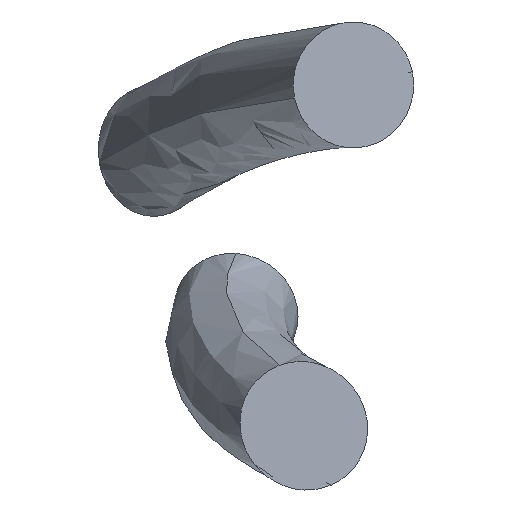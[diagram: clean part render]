
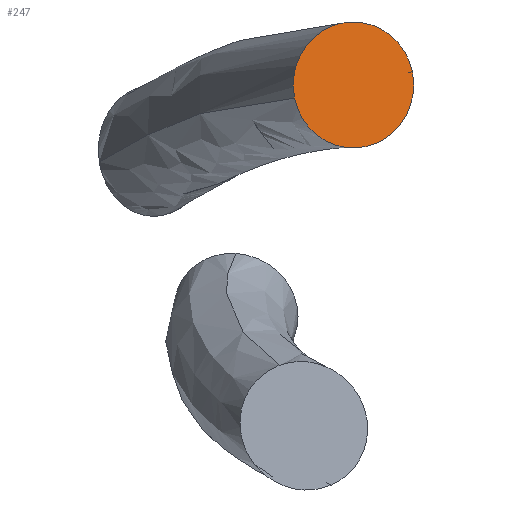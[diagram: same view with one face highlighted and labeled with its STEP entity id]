
A CAD part, top view. The second image highlights one B-rep face of the part: STEP entity #247.
In plain terms, the highlighted planar face has unit normal (0.292, 0, 0.956).
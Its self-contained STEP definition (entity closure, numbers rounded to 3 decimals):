
#71 = VERTEX_POINT ( 'NONE', #828 ) ;
#90 = CARTESIAN_POINT ( 'NONE',  ( 422.09, -245.091, 960.014 ) ) ;
#134 = AXIS2_PLACEMENT_3D ( 'NONE', #302, #645, #288 ) ;
#185 = CIRCLE ( 'NONE', #332, 22.5 ) ;
#247 = ADVANCED_FACE ( 'NONE', ( #1058 ), #1178, .T. ) ;
#288 = DIRECTION ( 'NONE',  ( -0.935, -0.209, 0.286 ) ) ;
#296 = DIRECTION ( 'NONE',  ( 0.292, 0., 0.956 ) ) ;
#302 = CARTESIAN_POINT ( 'NONE',  ( 422.09, -245.091, 960.014 ) ) ;
#332 = AXIS2_PLACEMENT_3D ( 'NONE', #401, #296, #906 ) ;
#401 = CARTESIAN_POINT ( 'NONE',  ( 422.09, -245.091, 960.014 ) ) ;
#483 = CARTESIAN_POINT ( 'NONE',  ( 443.133, -240.394, 953.58 ) ) ;
#645 = DIRECTION ( 'NONE',  ( 0.292, 0., 0.956 ) ) ;
#696 = DIRECTION ( 'NONE',  ( -0.935, -0.209, 0.286 ) ) ;
#828 = CARTESIAN_POINT ( 'NONE',  ( 401.048, -249.789, 966.447 ) ) ;
#906 = DIRECTION ( 'NONE',  ( -0.935, -0.209, 0.286 ) ) ;
#959 = EDGE_CURVE ( 'NONE', #1385, #71, #185, .T. ) ;
#991 = EDGE_LOOP ( 'NONE', ( #999, #1503 ) ) ;
#999 = ORIENTED_EDGE ( 'NONE', *, *, #1043, .T. ) ;
#1040 = DIRECTION ( 'NONE',  ( 0.292, 0., 0.956 ) ) ;
#1043 = EDGE_CURVE ( 'NONE', #71, #1385, #1132, .T. ) ;
#1058 = FACE_OUTER_BOUND ( 'NONE', #991, .T. ) ;
#1132 = CIRCLE ( 'NONE', #134, 22.5 ) ;
#1178 = PLANE ( 'NONE',  #1508 ) ;
#1385 = VERTEX_POINT ( 'NONE', #483 ) ;
#1503 = ORIENTED_EDGE ( 'NONE', *, *, #959, .T. ) ;
#1508 = AXIS2_PLACEMENT_3D ( 'NONE', #90, #1040, #696 ) ;
